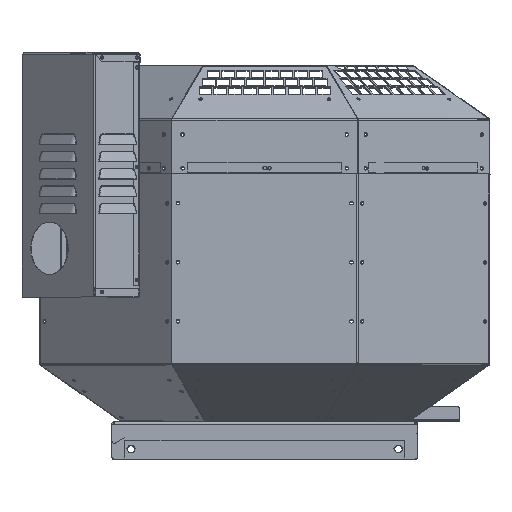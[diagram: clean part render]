
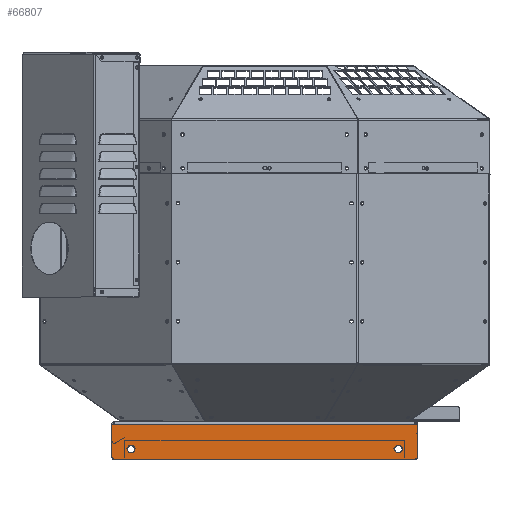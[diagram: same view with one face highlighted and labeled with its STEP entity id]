
A CAD part, top view. The second image highlights one B-rep face of the part: STEP entity #66807.
In plain terms, the highlighted planar face has unit normal (0, 0, 1).
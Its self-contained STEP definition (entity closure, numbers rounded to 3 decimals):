
#60 = ORIENTED_EDGE ( 'NONE', *, *, #55290, .T. ) ;
#466 = AXIS2_PLACEMENT_3D ( 'NONE', #66653, #25860, #73525 ) ;
#1748 = CIRCLE ( 'NONE', #466, 4.5 ) ;
#2814 = DIRECTION ( 'NONE',  ( -1., 0., 0. ) ) ;
#3022 = VERTEX_POINT ( 'NONE', #35933 ) ;
#3429 = AXIS2_PLACEMENT_3D ( 'NONE', #5617, #53262, #12478 ) ;
#4082 = EDGE_CURVE ( 'NONE', #80464, #74806, #85682, .T. ) ;
#5544 = VECTOR ( 'NONE', #52316, 1000. ) ;
#5617 = CARTESIAN_POINT ( 'NONE',  ( -158.5, -32.732, 170.3 ) ) ;
#5632 = DIRECTION ( 'NONE',  ( 0., 0., 1. ) ) ;
#5886 = EDGE_LOOP ( 'NONE', ( #36424, #70117 ) ) ;
#6721 = CARTESIAN_POINT ( 'NONE',  ( -169.025, -3.632, 170.3 ) ) ;
#6865 = EDGE_CURVE ( 'NONE', #53239, #3022, #1748, .T. ) ;
#7574 = VERTEX_POINT ( 'NONE', #19576 ) ;
#8427 = ORIENTED_EDGE ( 'NONE', *, *, #52364, .T. ) ;
#10397 = CARTESIAN_POINT ( 'NONE',  ( -158.5, -37.232, 170.3 ) ) ;
#10696 = FACE_OUTER_BOUND ( 'NONE', #63810, .T. ) ;
#10719 = EDGE_CURVE ( 'NONE', #83767, #63933, #78032, .T. ) ;
#11622 = CARTESIAN_POINT ( 'NONE',  ( -178.525, -41.682, 170.3 ) ) ;
#11659 = AXIS2_PLACEMENT_3D ( 'NONE', #85864, #24833, #72510 ) ;
#11976 = EDGE_CURVE ( 'NONE', #80498, #86532, #34235, .T. ) ;
#12478 = DIRECTION ( 'NONE',  ( 0., -1., 0. ) ) ;
#13184 = VECTOR ( 'NONE', #2814, 1000. ) ;
#13555 = DIRECTION ( 'NONE',  ( -1., 0., 0. ) ) ;
#15371 = CARTESIAN_POINT ( 'NONE',  ( 181.525, -3.632, 170.3 ) ) ;
#16550 = EDGE_CURVE ( 'NONE', #3022, #53239, #40033, .T. ) ;
#17014 = ORIENTED_EDGE ( 'NONE', *, *, #55663, .T. ) ;
#18027 = CARTESIAN_POINT ( 'NONE',  ( 169.025, -3.632, 170.3 ) ) ;
#18479 = DIRECTION ( 'NONE',  ( 0., -1., 0. ) ) ;
#18838 = ORIENTED_EDGE ( 'NONE', *, *, #10719, .F. ) ;
#19576 = CARTESIAN_POINT ( 'NONE',  ( -181.525, -41.682, 170.3 ) ) ;
#19942 = EDGE_LOOP ( 'NONE', ( #56201, #57275 ) ) ;
#21099 = AXIS2_PLACEMENT_3D ( 'NONE', #11622, #59291, #18479 ) ;
#21750 = AXIS2_PLACEMENT_3D ( 'NONE', #46459, #5632, #53272 ) ;
#22658 = ORIENTED_EDGE ( 'NONE', *, *, #79552, .T. ) ;
#23071 = DIRECTION ( 'NONE',  ( -1., 0., 0. ) ) ;
#23164 = EDGE_CURVE ( 'NONE', #78260, #7574, #51574, .T. ) ;
#24833 = DIRECTION ( 'NONE',  ( 0., 0., 1. ) ) ;
#24878 = DIRECTION ( 'NONE',  ( 1., 0., 0. ) ) ;
#25860 = DIRECTION ( 'NONE',  ( 0., 0., 1. ) ) ;
#26564 = CIRCLE ( 'NONE', #21099, 3. ) ;
#28394 = CARTESIAN_POINT ( 'NONE',  ( 181.525, -41.682, 170.3 ) ) ;
#29228 = VECTOR ( 'NONE', #52460, 1000. ) ;
#30986 = FACE_BOUND ( 'NONE', #19942, .T. ) ;
#31053 = DIRECTION ( 'NONE',  ( 0., 0., 1. ) ) ;
#32296 = ORIENTED_EDGE ( 'NONE', *, *, #83870, .F. ) ;
#34235 = CIRCLE ( 'NONE', #21750, 4.5 ) ;
#35933 = CARTESIAN_POINT ( 'NONE',  ( 158.5, -37.232, 170.3 ) ) ;
#36424 = ORIENTED_EDGE ( 'NONE', *, *, #16550, .F. ) ;
#37994 = CARTESIAN_POINT ( 'NONE',  ( 178.525, -41.682, 170.3 ) ) ;
#38028 = AXIS2_PLACEMENT_3D ( 'NONE', #37994, #85642, #44854 ) ;
#38637 = CARTESIAN_POINT ( 'NONE',  ( 181.525, -3.632, 170.3 ) ) ;
#39428 = LINE ( 'NONE', #18027, #73567 ) ;
#40033 = CIRCLE ( 'NONE', #50414, 4.5 ) ;
#40535 = EDGE_CURVE ( 'NONE', #86532, #80498, #82889, .T. ) ;
#41419 = CARTESIAN_POINT ( 'NONE',  ( -178.125, -3.632, 170.3 ) ) ;
#44854 = DIRECTION ( 'NONE',  ( 0., -1., 0. ) ) ;
#46459 = CARTESIAN_POINT ( 'NONE',  ( -158.5, -32.732, 170.3 ) ) ;
#47149 = VERTEX_POINT ( 'NONE', #66107 ) ;
#47577 = CARTESIAN_POINT ( 'NONE',  ( 158.5, -28.232, 170.3 ) ) ;
#50414 = AXIS2_PLACEMENT_3D ( 'NONE', #71845, #31053, #78693 ) ;
#51574 = LINE ( 'NONE', #79603, #29228 ) ;
#52316 = DIRECTION ( 'NONE',  ( 0., -1., 0. ) ) ;
#52364 = EDGE_CURVE ( 'NONE', #7574, #74806, #26564, .T. ) ;
#52460 = DIRECTION ( 'NONE',  ( 0., -1., 0. ) ) ;
#53239 = VERTEX_POINT ( 'NONE', #47577 ) ;
#53262 = DIRECTION ( 'NONE',  ( 0., 0., 1. ) ) ;
#53272 = DIRECTION ( 'NONE',  ( 0., -1., 0. ) ) ;
#53709 = CARTESIAN_POINT ( 'NONE',  ( -181.525, -3.632, 170.3 ) ) ;
#53817 = LINE ( 'NONE', #6721, #81534 ) ;
#55225 = ORIENTED_EDGE ( 'NONE', *, *, #23164, .T. ) ;
#55290 = EDGE_CURVE ( 'NONE', #80464, #63933, #79885, .T. ) ;
#55663 = EDGE_CURVE ( 'NONE', #81882, #78260, #72384, .T. ) ;
#56201 = ORIENTED_EDGE ( 'NONE', *, *, #11976, .F. ) ;
#56343 = VECTOR ( 'NONE', #23071, 1000. ) ;
#57275 = ORIENTED_EDGE ( 'NONE', *, *, #40535, .F. ) ;
#59291 = DIRECTION ( 'NONE',  ( 0., 0., 1. ) ) ;
#62003 = CARTESIAN_POINT ( 'NONE',  ( -158.5, -28.232, 170.3 ) ) ;
#63810 = EDGE_LOOP ( 'NONE', ( #74746, #60, #18838, #32296, #22658, #17014, #55225, #8427 ) ) ;
#63887 = CARTESIAN_POINT ( 'NONE',  ( -169.025, -3.632, 170.3 ) ) ;
#63933 = VERTEX_POINT ( 'NONE', #28394 ) ;
#65645 = PLANE ( 'NONE',  #11659 ) ;
#66107 = CARTESIAN_POINT ( 'NONE',  ( 178.125, -3.632, 170.3 ) ) ;
#66653 = CARTESIAN_POINT ( 'NONE',  ( 158.5, -32.732, 170.3 ) ) ;
#66807 = ADVANCED_FACE ( 'NONE', ( #81072, #30986, #10696 ), #65645, .T. ) ;
#70117 = ORIENTED_EDGE ( 'NONE', *, *, #6865, .F. ) ;
#71845 = CARTESIAN_POINT ( 'NONE',  ( 158.5, -32.732, 170.3 ) ) ;
#72332 = CARTESIAN_POINT ( 'NONE',  ( -178.525, -44.682, 170.3 ) ) ;
#72384 = LINE ( 'NONE', #63887, #56343 ) ;
#72510 = DIRECTION ( 'NONE',  ( 0., -1., 0. ) ) ;
#73525 = DIRECTION ( 'NONE',  ( 0., -1., 0. ) ) ;
#73567 = VECTOR ( 'NONE', #24878, 1000. ) ;
#74746 = ORIENTED_EDGE ( 'NONE', *, *, #4082, .F. ) ;
#74806 = VERTEX_POINT ( 'NONE', #72332 ) ;
#78032 = LINE ( 'NONE', #38637, #5544 ) ;
#78260 = VERTEX_POINT ( 'NONE', #53709 ) ;
#78693 = DIRECTION ( 'NONE',  ( 0., -1., 0. ) ) ;
#79552 = EDGE_CURVE ( 'NONE', #47149, #81882, #53817, .T. ) ;
#79603 = CARTESIAN_POINT ( 'NONE',  ( -181.525, -3.632, 170.3 ) ) ;
#79885 = CIRCLE ( 'NONE', #38028, 3. ) ;
#80464 = VERTEX_POINT ( 'NONE', #84581 ) ;
#80498 = VERTEX_POINT ( 'NONE', #10397 ) ;
#81072 = FACE_BOUND ( 'NONE', #5886, .T. ) ;
#81534 = VECTOR ( 'NONE', #13555, 1000. ) ;
#81882 = VERTEX_POINT ( 'NONE', #41419 ) ;
#82889 = CIRCLE ( 'NONE', #3429, 4.5 ) ;
#83767 = VERTEX_POINT ( 'NONE', #15371 ) ;
#83870 = EDGE_CURVE ( 'NONE', #47149, #83767, #39428, .T. ) ;
#84451 = CARTESIAN_POINT ( 'NONE',  ( -169.025, -44.682, 170.3 ) ) ;
#84581 = CARTESIAN_POINT ( 'NONE',  ( 178.525, -44.682, 170.3 ) ) ;
#85642 = DIRECTION ( 'NONE',  ( 0., 0., 1. ) ) ;
#85682 = LINE ( 'NONE', #84451, #13184 ) ;
#85864 = CARTESIAN_POINT ( 'NONE',  ( -169.025, -1.732, 170.3 ) ) ;
#86532 = VERTEX_POINT ( 'NONE', #62003 ) ;
